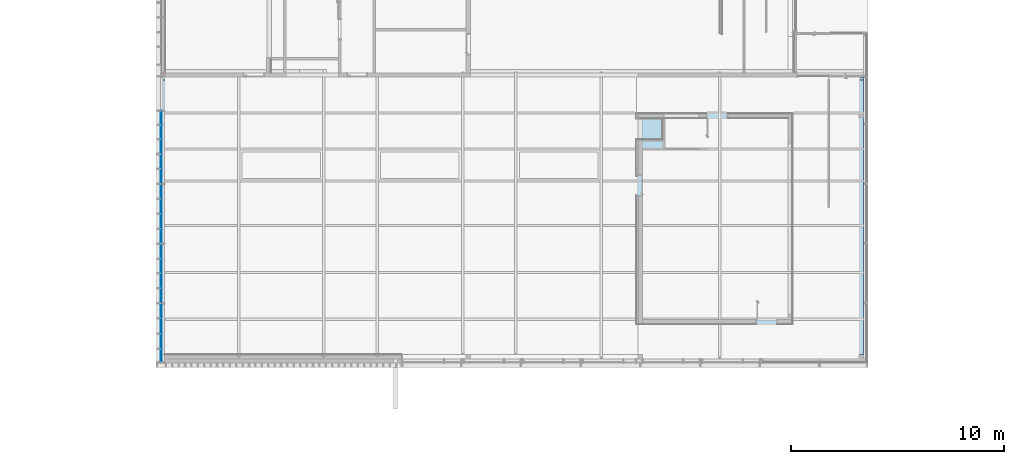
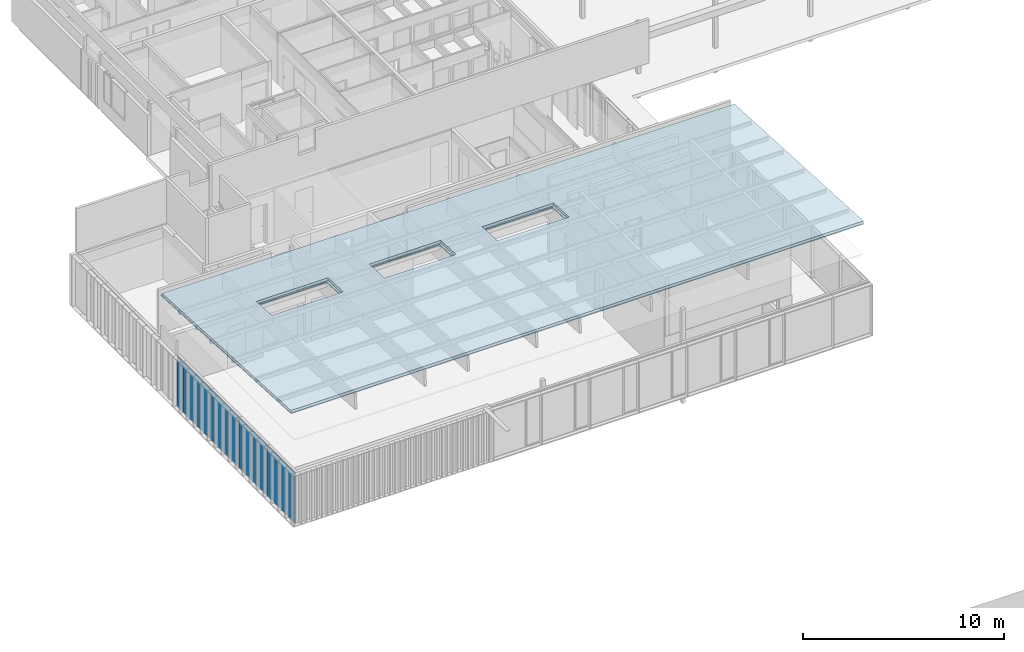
# One storey, part 58 of 240: 5 plates, 2 slabs, 6 openings, 3 elements without a shape of their own.
"""IFC2X3 building model written with IfcOpenShell, lengths in centimetres."""

from ifc_helpers import new_model, entity, si_unit, converted_unit, derived_unit, direction, frame, frame_2d, origin, origin_2d_with_axis, place, context, subcontext, project, spatial, rectangle, extrude, source, transform, mapped, material, layer, layer_set, layer_usage, type_object, type_shapes, element, aggregate, save


model = new_model("IFC2X3")

# Units and contexts
model_context = context("Model", 3, precision=0.001, world=origin(), true_north=direction((6.12303176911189e-17, 1.0)))
body_context = subcontext(model_context, "Body", "Model", "MODEL_VIEW")
ifc_project = project(units=[si_unit("LENGTHUNIT", "METRE", prefix="CENTI"), si_unit("AREAUNIT", "SQUARE_METRE"), si_unit("VOLUMEUNIT", "CUBIC_METRE"), converted_unit("PLANEANGLEUNIT", "DEGREE", entity("IfcRatioMeasure", 0.0174532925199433), si_unit("PLANEANGLEUNIT", "RADIAN"), dimensions=[0, 0, 0, 0, 0, 0, 0]), si_unit("MASSUNIT", "GRAM", prefix="KILO"), derived_unit("MASSDENSITYUNIT", [(si_unit("MASSUNIT", "GRAM", prefix="KILO"), 1), (si_unit("LENGTHUNIT", "METRE"), -3)]), si_unit("TIMEUNIT", "SECOND"), si_unit("FREQUENCYUNIT", "HERTZ"), si_unit("THERMODYNAMICTEMPERATUREUNIT", "DEGREE_CELSIUS"), derived_unit("THERMALTRANSMITTANCEUNIT", [(si_unit("MASSUNIT", "GRAM", prefix="KILO"), 1), (si_unit("THERMODYNAMICTEMPERATUREUNIT", "KELVIN"), -1), (si_unit("TIMEUNIT", "SECOND"), -3)]), derived_unit("VOLUMETRICFLOWRATEUNIT", [(si_unit("LENGTHUNIT", "METRE"), 3), (si_unit("TIMEUNIT", "SECOND"), -1)]), si_unit("ELECTRICCURRENTUNIT", "AMPERE"), si_unit("ELECTRICVOLTAGEUNIT", "VOLT"), si_unit("POWERUNIT", "WATT"), si_unit("FORCEUNIT", "NEWTON", prefix="KILO"), si_unit("ILLUMINANCEUNIT", "LUX"), si_unit("LUMINOUSFLUXUNIT", "LUMEN"), si_unit("LUMINOUSINTENSITYUNIT", "CANDELA"), derived_unit("USERDEFINED", [(si_unit("MASSUNIT", "GRAM", prefix="KILO"), -1), (si_unit("LENGTHUNIT", "METRE"), -2), (si_unit("TIMEUNIT", "SECOND"), 3), (si_unit("LUMINOUSFLUXUNIT", "LUMEN"), 1)]), derived_unit("LINEARVELOCITYUNIT", [(si_unit("LENGTHUNIT", "METRE"), 1), (si_unit("TIMEUNIT", "SECOND"), -1)]), si_unit("PRESSUREUNIT", "PASCAL"), derived_unit("USERDEFINED", [(si_unit("LENGTHUNIT", "METRE"), -2), (si_unit("MASSUNIT", "GRAM", prefix="KILO"), 1), (si_unit("TIMEUNIT", "SECOND"), -2)])], contexts=[model_context])

# Site, building, storey
site_placement = place(None, frame((-2781.94577612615, 7442.24238424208, 0.0)))
site = spatial("IfcSite", under=ifc_project, at=site_placement, Name="Default", CompositionType="ELEMENT")
building_placement = place(site_placement, origin())
building = spatial("IfcBuilding", under=site, at=building_placement, CompositionType="ELEMENT")
storey_placement = place(building_placement, origin())
storey = spatial("IfcBuildingStorey", under=building, at=storey_placement, Name="N00 - COO", CompositionType="ELEMENT", Elevation=0.0)

# Curtain wall, plates
curtain_wall_type = type_object("IfcCurtainWallType", Name="Mur-rideau:07 - mur rideau trame 280 cm", PredefinedType="NOTDEFINED")
curtain_wall_placement = place(building_placement, origin())
curtain_wall = element("IfcCurtainWall", 1, at=curtain_wall_placement, inside=storey, type_object=curtain_wall_type, Name="Mur-rideau:07 - mur rideau trame 280 cm", ObjectType="Mur-rideau:07 - mur rideau trame 280 cm")
ifc_material = material(Name="Verre")
ifc_layer = layer(ifc_material, 4.0)
ifc_layer_set = layer_set([ifc_layer], Name="Panneau système:Vitré")
ifc_layer_usage_1 = layer_usage(ifc_layer_set, "AXIS3", "POSITIVE", 0.0)
plate_type_1 = type_object("IfcPlateType", Name="Vitré", PredefinedType="CURTAIN_PANEL", material=ifc_layer_set)
shared_shape_1 = source(origin(), body_context, "Body", "SweptSolid", [
    extrude(rectangle(XDim=4.0, YDim=279.13125, at=origin_2d_with_axis()), frame((0.0, 0.0, 0.0), z_axis=(0.0, 0.0, 1.0), x_axis=(0.0, 1.0, 0.0)), (0.0, 0.0, 1.0), 304.762500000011),
])
type_shapes(plate_type_1, [shared_shape_1])
plate_1_placement = place(curtain_wall_placement, frame((-11860.6505746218, -4586.0673593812, 4.11874999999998), z_axis=(0.0, 0.0, 1.0), x_axis=(0.0, 1.0, 0.0)))
plate_1 = element("IfcPlate", 2, at=plate_1_placement, type_object=plate_type_1, material=ifc_layer_usage_1, Name="Panneau système:Vitré", ObjectType="Panneau système:Vitré", context=body_context, shape_type="MappedRepresentation", body=[
    mapped(shared_shape_1, transform((0.0, 0.0, 0.0), scale=1.0)),
])
ifc_layer_usage_2 = layer_usage(ifc_layer_set, "AXIS3", "POSITIVE", 0.0)
plate_type_2 = type_object("IfcPlateType", Name="Vitré", PredefinedType="CURTAIN_PANEL", material=ifc_layer_set)
shared_shape_2 = source(origin(), body_context, "Body", "SweptSolid", [
    extrude(rectangle(XDim=4.0, YDim=278.262499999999, at=origin_2d_with_axis()), frame((0.0, 0.0, 0.0), z_axis=(0.0, 0.0, 1.0), x_axis=(0.0, 1.0, 0.0)), (0.0, 0.0, 1.0), 304.762500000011),
])
type_shapes(plate_type_2, [shared_shape_2])
plate_2_placement = place(curtain_wall_placement, frame((-11860.6505746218, -5146.5017343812, 4.11874999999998), z_axis=(0.0, 0.0, 1.0), x_axis=(0.0, 1.0, 0.0)))
plate_2 = element("IfcPlate", 3, at=plate_2_placement, type_object=plate_type_2, material=ifc_layer_usage_2, Name="Panneau système:Vitré", ObjectType="Panneau système:Vitré", context=body_context, shape_type="MappedRepresentation", body=[
    mapped(shared_shape_2, transform((0.0, 0.0, 0.0), scale=1.0)),
])
ifc_layer_usage_3 = layer_usage(ifc_layer_set, "AXIS3", "POSITIVE", 0.0)
plate_3_placement = place(curtain_wall_placement, frame((-11860.6505746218, -4866.5017343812, 4.11874999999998), z_axis=(0.0, 0.0, 1.0), x_axis=(0.0, 1.0, 0.0)))
plate_3 = element("IfcPlate", 4, at=plate_3_placement, type_object=plate_type_2, material=ifc_layer_usage_3, Name="Panneau système:Vitré", ObjectType="Panneau système:Vitré", context=body_context, shape_type="MappedRepresentation", body=[
    mapped(shared_shape_2, transform((0.0, 0.0, 0.0), scale=1.0)),
])
ifc_layer_usage_4 = layer_usage(ifc_layer_set, "AXIS3", "POSITIVE", 0.0)
plate_type_3 = type_object("IfcPlateType", Name="Vitré", PredefinedType="CURTAIN_PANEL", material=ifc_layer_set)
shared_shape_3 = source(origin(), body_context, "Body", "SweptSolid", [
    extrude(rectangle(XDim=4.0, YDim=275.01250003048, at=origin_2d_with_axis()), frame((0.0, 0.0, 0.0), z_axis=(0.0, 0.0, 1.0), x_axis=(0.0, 1.0, 0.0)), (0.0, 0.0, 1.0), 304.762500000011),
])
type_shapes(plate_type_3, [shared_shape_3])
plate_4_placement = place(curtain_wall_placement, frame((-11860.6505746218, -5424.87673439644, 4.11874999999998), z_axis=(0.0, 0.0, 1.0), x_axis=(0.0, 1.0, 0.0)))
plate_4 = element("IfcPlate", 5, at=plate_4_placement, type_object=plate_type_3, material=ifc_layer_usage_4, Name="Panneau système:Vitré", ObjectType="Panneau système:Vitré", context=body_context, shape_type="MappedRepresentation", body=[
    mapped(shared_shape_3, transform((0.0, 0.0, 0.0), scale=1.0)),
])
ifc_layer_usage_5 = layer_usage(ifc_layer_set, "AXIS3", "POSITIVE", 0.0)
plate_type_4 = type_object("IfcPlateType", Name="Vitré", PredefinedType="CURTAIN_PANEL", material=ifc_layer_set)
shared_shape_4 = source(origin(), body_context, "Body", "SweptSolid", [
    extrude(rectangle(XDim=4.0, YDim=61.8812499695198, at=origin_2d_with_axis()), frame((0.0, 0.0, 0.0), z_axis=(0.0, 0.0, 1.0), x_axis=(0.0, 1.0, 0.0)), (0.0, 0.0, 1.0), 304.762500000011),
])
type_shapes(plate_type_4, [shared_shape_4])
plate_5_placement = place(curtain_wall_placement, frame((-11860.6505746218, -4415.56110939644, 4.11874999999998), z_axis=(0.0, 0.0, 1.0), x_axis=(0.0, 1.0, 0.0)))
plate_5 = element("IfcPlate", 6, at=plate_5_placement, type_object=plate_type_4, material=ifc_layer_usage_5, Name="Panneau système:Vitré", ObjectType="Panneau système:Vitré", context=body_context, shape_type="MappedRepresentation", body=[
    mapped(shared_shape_4, transform((0.0, 0.0, 0.0), scale=1.0)),
])
aggregate(curtain_wall, [plate_4, plate_2, plate_3, plate_1, plate_5])

# Roof, slab, openings
roof_1_placement = place(building_placement, origin())
roof_1 = element("IfcRoof", 7, at=roof_1_placement, inside=storey, Name="Toit de base:03 - Dalle isolant", ObjectType="Toit de base:03 - Dalle isolant", ShapeType="NOTDEFINED")
slab_1_placement = place(building_placement, origin())
slab_1 = element("IfcSlab", 8, at=slab_1_placement, Name="Toit de base:03 - Dalle isolant:1", ObjectType="Toit de base:03 - Dalle isolant", PredefinedType="ROOF", context=body_context, shape_type="SweptSolid", body=[
    extrude(rectangle(XDim=1287.76629994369, YDim=3295.3631937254, at=frame_2d((-7.95807864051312e-13, 0.0), x_axis=(0.0, 1.0))), frame((-10216.6689777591, -4883.45991813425, 619.780623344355), z_axis=(0.0, 0.052335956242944, 0.998629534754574), x_axis=(1.0, 0.0, 0.0)), (0.0, -0.052335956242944, 0.998629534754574), 16.0219575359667),
])
opening_1_placement = place(building_placement, origin())
element("IfcOpeningElement", 9, at=opening_1_placement, cuts=slab_1, Name="Toit de base:03 - Dalle isolant:1", ObjectType="Opening", context=body_context, shape_type="SweptSolid", body=[
    extrude(rectangle(XDim=153.950984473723, YDim=412.000000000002, at=frame_2d((0.0, 8.66862137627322e-13), x_axis=(1.0, 0.0))), frame((-10648.3505746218, -4633.34918764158, 606.672875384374), z_axis=(0.0, 0.0523359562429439, 0.998629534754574), x_axis=(0.0, 0.998629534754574, -0.0523359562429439)), (-0.0523359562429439, 0.0, 0.998629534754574), 16.0219575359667),
])
opening_2_placement = place(building_placement, origin())
element("IfcOpeningElement", 10, at=opening_2_placement, cuts=slab_1, Name="Toit de base:03 - Dalle isolant:2", ObjectType="Opening", context=body_context, shape_type="SweptSolid", body=[
    extrude(rectangle(XDim=153.950984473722, YDim=412.000000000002, at=frame_2d((25.6584974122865, 2.60058641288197e-12), x_axis=(1.0, 0.0))), frame((-9998.35057462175, -4658.97252097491, 608.015737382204), z_axis=(0.0, 0.0523359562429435, 0.998629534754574), x_axis=(0.0, 0.998629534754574, -0.0523359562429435)), (-0.0523359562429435, 0.0, 0.998629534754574), 16.0219575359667),
])
opening_3_placement = place(building_placement, origin())
element("IfcOpeningElement", 11, at=opening_3_placement, cuts=slab_1, Name="Toit de base:03 - Dalle isolant:3", ObjectType="Opening", context=body_context, shape_type="SweptSolid", body=[
    extrude(rectangle(XDim=153.950984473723, YDim=411.999999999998, at=origin_2d_with_axis()), frame((-11298.3505746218, -4633.34918764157, 606.672875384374), z_axis=(0.0, 0.0523359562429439, 0.998629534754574), x_axis=(0.0, 0.998629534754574, -0.0523359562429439)), (-0.0523359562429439, 0.0, 0.998629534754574), 16.0219575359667),
])
aggregate(roof_1, [slab_1])

roof_2_placement = place(storey_placement, origin())
roof_2 = element("IfcRoof", 12, at=roof_2_placement, inside=storey, Name="Toit de base:03 - Dalle bac acier", ObjectType="Toit de base:03 - Dalle bac acier", ShapeType="NOTDEFINED")
slab_2_placement = place(storey_placement, origin())
slab_2 = element("IfcSlab", 13, at=slab_2_placement, Name="Toit de base:03 - Dalle bac acier:1", ObjectType="Toit de base:03 - Dalle bac acier", PredefinedType="ROOF", context=body_context, shape_type="SweptSolid", body=[
    extrude(rectangle(XDim=1302.78688513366, YDim=3295.3631937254, at=frame_2d((329.53631937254, -26.306590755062), x_axis=(0.0, 1.0))), frame((-10546.2052971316, -4849.73733952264, 613.507122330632), z_axis=(0.0, 0.0523359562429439, 0.998629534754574), x_axis=(1.0, 0.0, 0.0)), (0.0, -0.0523359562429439, 0.998629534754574), 4.50617555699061),
])
opening_4_placement = place(storey_placement, origin())
element("IfcOpeningElement", 14, at=opening_4_placement, cuts=slab_2, Name="Toit de base:03 - Dalle bac acier:1", ObjectType="Opening", context=body_context, shape_type="SweptSolid", body=[
    extrude(rectangle(XDim=144.197617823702, YDim=387.999999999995, at=frame_2d((4.33431068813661e-13, 0.0), x_axis=(1.0, 0.0))), frame((-11298.3505746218, -4638.47714751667, 602.43544481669), z_axis=(0.0, 0.0523359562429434, 0.998629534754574), x_axis=(0.0, 0.998629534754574, -0.0523359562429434)), (-0.0523359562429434, 0.0, 0.998629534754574), 4.50617555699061),
])
opening_5_placement = place(storey_placement, origin())
element("IfcOpeningElement", 15, at=opening_5_placement, cuts=slab_2, Name="Toit de base:03 - Dalle bac acier:2", ObjectType="Opening", context=body_context, shape_type="SweptSolid", body=[
    extrude(rectangle(XDim=144.197617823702, YDim=387.999999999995, at=frame_2d((4.33431068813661e-13, 0.0), x_axis=(1.0, 0.0))), frame((-10648.3505746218, -4638.47714751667, 602.43544481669), z_axis=(0.0, 0.0523359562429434, 0.998629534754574), x_axis=(0.0, 0.998629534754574, -0.0523359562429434)), (-0.0523359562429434, 0.0, 0.998629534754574), 4.50617555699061),
])
opening_6_placement = place(storey_placement, origin())
element("IfcOpeningElement", 16, at=opening_6_placement, cuts=slab_2, Name="Toit de base:03 - Dalle bac acier:3", ObjectType="Opening", context=body_context, shape_type="SweptSolid", body=[
    extrude(rectangle(XDim=144.197617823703, YDim=387.999999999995, at=frame_2d((4.2632564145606e-13, 0.0), x_axis=(1.0, 0.0))), frame((-9998.35057462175, -4638.47714751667, 602.43544481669), z_axis=(0.0, 0.0523359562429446, 0.998629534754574), x_axis=(0.0, 0.998629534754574, -0.0523359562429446)), (-0.0523359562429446, 0.0, 0.998629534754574), 4.50617555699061),
])
aggregate(roof_2, [slab_2])

save(model, "model.ifc")
